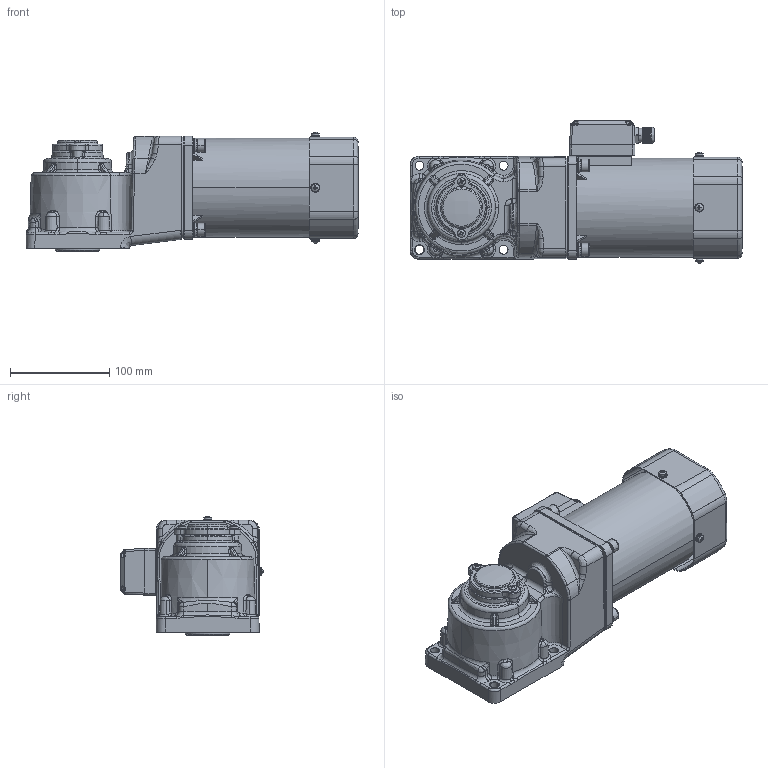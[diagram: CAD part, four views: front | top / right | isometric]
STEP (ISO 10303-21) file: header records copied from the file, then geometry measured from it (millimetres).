
FILE_DESCRIPTION (( 'STEP AP203' ), '1' );
FILE_NAME ('6IK120RGU-CFT(6GU3RC-180RC)ÐÂ.STEP', '2023-07-07T03:17:17', ( 'Windows User' ), ( 'P R C' ), 'SwSTEP 2.0', 'SolidWorks 2019', '' );
FILE_SCHEMA (( 'CONFIG_CONTROL_DESIGN' ));
Length unit declared in the file: millimetre
Products named in the file (5): ^_6IK120RGU-CFT(6GU3RC-180RC)陔(2)_6IK120RGU-CFT(6GU3RC-180RC)陔; 6IK120RGU-CFT(6GU3RC-180RC)陔(2)^6IK120RGU-CFT(6GU3RC-180RC)陔; ^6IK120RGU-CFT(6GU3RC-180RC)陔(2)_6IK120RGU-CFT(6GU3RC-180RC)陔; 6IK120RGU-CFT(6GU3RC-180RC)陔; 100RC____________________^6IK120RGU-CFT(6GU3RC-180RC)ÐÂ(2)_6IK120RGU-CFT(6GU3RC-180RC)ÐÂ
Assembly tree (4 placements, depth 4):
  6IK120RGU-CFT(6GU3RC-180RC)陔
    6IK120RGU-CFT(6GU3RC-180RC)陔(2)^6IK120RGU-CFT(6GU3RC-180RC)陔
      ^6IK120RGU-CFT(6GU3RC-180RC)陔(2)_6IK120RGU-CFT(6GU3RC-180RC)陔
        ^_6IK120RGU-CFT(6GU3RC-180RC)陔(2)_6IK120RGU-CFT(6GU3RC-180RC)陔
      100RC____________________^6IK120RGU-CFT(6GU3RC-180RC)ÐÂ(2)_6IK120RGU-CFT(6GU3RC-180RC)ÐÂ
Bounding box: 334.98 x 143.46 x 120.46 mm (x, y, z)
Volume: 2463479.9 mm3; surface area: 287674 mm2
Topology: 37 solids, 47 shells, 2702 faces, 6536 edges, 3943 vertices
Faces by surface type: cylinder 822, plane 766, cone 566, bspline 376, torus 124, sphere 48
Entity records: 104558 total; most frequent: CARTESIAN_POINT 45119, ORIENTED_EDGE 12946, DIRECTION 11576, EDGE_CURVE 6473, AXIS2_PLACEMENT_3D 4554, VERTEX_POINT 3941, EDGE_LOOP 2856, FACE_OUTER_BOUND 2702
